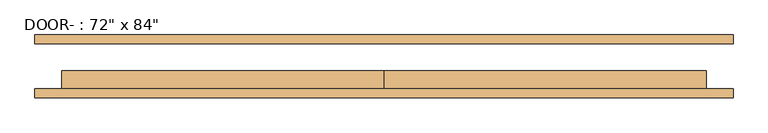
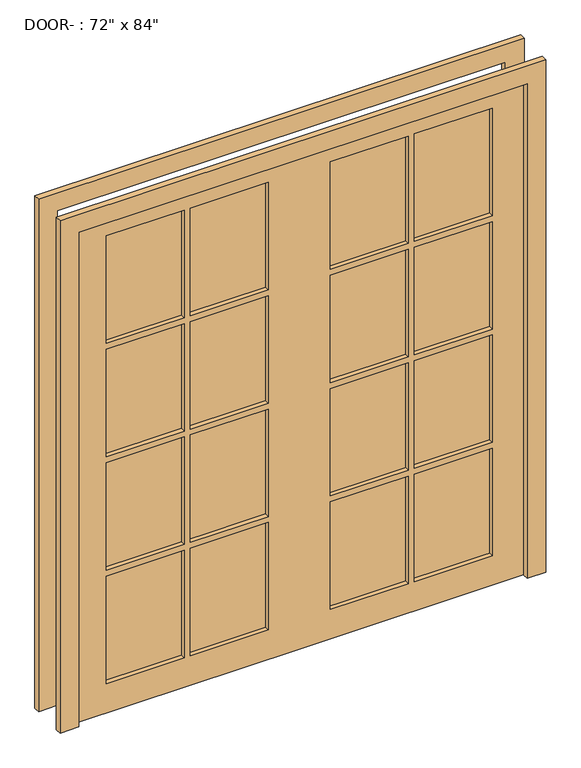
"""IFC4 building model written with IfcOpenShell, lengths in millimetres: door geometry."""

import ifcopenshell
import ifcopenshell.guid

model = None  # the IFC model being written
_history = None  # IfcOwnerHistory: only IFC2X3 demands one
_inside = {}  # id of a spatial element -> (the spatial element, [elements in it])
_under = {}  # id of a project, library or spatial element -> (it, [spatial elements below it])
_declared = {}  # id of a project -> (the project, [libraries it declares])
_typed = {}  # id of a type object -> (the type object, [elements of that type])
_made_of = {}  # id of a material, layer set ... -> (it, [elements and type objects made of it])


def new_model(schema):
    """Start an empty IFC model of exactly this schema.

    Asked for "IFC4X3", IfcOpenShell would pick the latest addendum, in which some entities
    have other attributes; the version numbers below select the first issue.
    IFC2X3 requires an IfcOwnerHistory on every rooted entity: one is made here for all.
    """
    global model, _history
    if schema == "IFC4X3":
        model = ifcopenshell.file(schema_version=(4, 3, 0, 0))
    else:
        model = ifcopenshell.file(schema=schema)
    _inside.clear()
    _under.clear()
    _declared.clear()
    _typed.clear()
    _made_of.clear()
    _history = None
    if model.schema == "IFC2X3":
        org = make("IfcOrganization", Name="unknown")
        user = make(
            "IfcPersonAndOrganization",
            ThePerson=make("IfcPerson", FamilyName="unknown"),
            TheOrganization=org,
        )
        app = make(
            "IfcApplication",
            ApplicationDeveloper=org,
            Version="unknown",
            ApplicationFullName="unknown",
            ApplicationIdentifier="unknown",
        )
        _history = make(
            "IfcOwnerHistory",
            OwningUser=user,
            OwningApplication=app,
            ChangeAction="ADDED",
            CreationDate=0,
        )
    return model


def make(cls, **values):
    """One entity of the class cls with the attributes given. An attribute that is None is left unset."""
    return model.create_entity(
        cls, **{name: value for name, value in values.items() if value is not None}
    )


def rooted(cls, **values):
    """An entity with a GlobalId (a new one), such as an element, a storey or a relation."""
    return make(cls, GlobalId=ifcopenshell.guid.new(), OwnerHistory=_history, **values)


def si_unit(unit_type, name, prefix=None):
    """IfcSIUnit, for example si_unit("LENGTHUNIT", "METRE", prefix="MILLI")."""
    return make("IfcSIUnit", UnitType=unit_type, Prefix=prefix, Name=name)


def assignment(units):
    """IfcUnitAssignment: the units of a project."""
    return None if units is None else make("IfcUnitAssignment", Units=units)


def point(xyz):
    """IfcCartesianPoint."""
    return None if xyz is None else make("IfcCartesianPoint", Coordinates=xyz)


def direction(xyz):
    """IfcDirection."""
    return None if xyz is None else make("IfcDirection", DirectionRatios=xyz)


def frame(location, z_axis=None, x_axis=None):
    """IfcAxis2Placement3D, a coordinate frame: its origin and axes. An axis left out is left unset."""
    return make(
        "IfcAxis2Placement3D",
        Location=point(location),
        Axis=direction(z_axis),
        RefDirection=direction(x_axis),
    )


def origin():
    """The frame at (0, 0, 0) with its axes left unset."""
    return frame((0.0, 0.0, 0.0))


def place(relative_to, where):
    """IfcLocalPlacement: puts the frame where relative to a parent placement (None: the world)."""
    return make(
        "IfcLocalPlacement", PlacementRelTo=relative_to, RelativePlacement=where
    )


def context(
    kind, dimensions, precision=None, world=None, true_north=None, identifier=None
):
    """IfcGeometricRepresentationContext, for example the 3D "Model" context."""
    return make(
        "IfcGeometricRepresentationContext",
        ContextIdentifier=identifier,
        ContextType=kind,
        CoordinateSpaceDimension=dimensions,
        Precision=precision,
        WorldCoordinateSystem=world,
        TrueNorth=true_north,
    )


def project(units=None, contexts=None):
    """IfcProject with its units and contexts."""
    return rooted(
        "IfcProject",
        Name="project",
        RepresentationContexts=contexts,
        UnitsInContext=assignment(units),
    )


def spatial(cls, under=None, at=None, **own):
    """A site, building, storey or space (cls), placed at a placement, below another one or the project."""
    s = rooted(cls, ObjectPlacement=at, **own)
    if under is not None:
        _under.setdefault(under.id(), (under, []))[1].append(s)
    return s


def polyline(points):
    """IfcPolyline through the points."""
    return make("IfcPolyline", Points=[point(p) for p in points])


def outline(outer, holes=None, kind="AREA"):
    """IfcArbitraryClosedProfileDef: a profile drawn as a closed curve; with holes, ...WithVoids."""
    if holes is None:
        return make("IfcArbitraryClosedProfileDef", ProfileType=kind, OuterCurve=outer)
    return make(
        "IfcArbitraryProfileDefWithVoids",
        ProfileType=kind,
        OuterCurve=outer,
        InnerCurves=holes,
    )


def extrude(swept, where, along, depth):
    """IfcExtrudedAreaSolid: the profile swept, set in the frame where, extruded along a direction by depth."""
    return make(
        "IfcExtrudedAreaSolid",
        SweptArea=swept,
        Position=where,
        ExtrudedDirection=direction(along),
        Depth=depth,
    )


def shape(context_of_items, identifier, shape_type, items):
    """IfcShapeRepresentation: the items that make up one representation, for example the "Body"."""
    return make(
        "IfcShapeRepresentation",
        ContextOfItems=context_of_items,
        RepresentationIdentifier=identifier,
        RepresentationType=shape_type,
        Items=items,
    )


def source(mapping_origin, context_of_items, identifier, shape_type, items):
    """IfcRepresentationMap: a shape defined once, which mapped items show again and again."""
    return make(
        "IfcRepresentationMap",
        MappingOrigin=mapping_origin,
        MappedRepresentation=shape(context_of_items, identifier, shape_type, items),
    )


def transform(
    local_origin,
    x_axis=None,
    y_axis=None,
    z_axis=None,
    scale=None,
    scale2=None,
    scale3=None,
    uniform=True,
):
    """IfcCartesianTransformationOperator3D, or its non-uniform kind. x_axis, y_axis, z_axis: its Axis1, 2, 3."""
    if uniform:
        return make(
            "IfcCartesianTransformationOperator3D",
            Axis1=direction(x_axis),
            Axis2=direction(y_axis),
            LocalOrigin=point(local_origin),
            Scale=scale,
            Axis3=direction(z_axis),
        )
    return make(
        "IfcCartesianTransformationOperator3DnonUniform",
        Axis1=direction(x_axis),
        Axis2=direction(y_axis),
        LocalOrigin=point(local_origin),
        Scale=scale,
        Axis3=direction(z_axis),
        Scale2=scale2,
        Scale3=scale3,
    )


def mapped(mapping_source, mapping_target):
    """IfcMappedItem: shows the shape of a source again, moved by a transform."""
    return make(
        "IfcMappedItem", MappingSource=mapping_source, MappingTarget=mapping_target
    )


def made_of(thing, what):
    """Note that an element or type object is made of a material, layer set ...; save() writes the relation."""
    if what is not None:
        _made_of.setdefault(what.id(), (what, []))[1].append(thing)
    return thing


def element(
    cls,
    number,
    at=None,
    inside=None,
    cuts=None,
    type_object=None,
    material=None,
    context=None,
    identifier="Body",
    shape_type=None,
    held_by="IfcProductDefinitionShape",
    body=None,
    shapes=None,
    **own,
):
    """One element of the class cls, such as IfcWall. Its Tag is "e" and its number.

    at: its placement. inside: the storey or other place that contains it. cuts: it is an
    opening in that element (IfcRelVoidsElement). A single representation is given by context,
    identifier, shape_type and body (its items); several are given by shapes. held_by: the class
    of the entity that holds the representations. save() writes the other relations.
    """
    e = rooted(cls, Tag="e%d" % number, ObjectPlacement=at, **own)
    if body is not None:
        shapes = [shape(context, identifier, shape_type, body)]
    if shapes is not None:
        e.Representation = make(held_by, Representations=shapes)
    if inside is not None:
        _inside.setdefault(inside.id(), (inside, []))[1].append(e)
    if cuts is not None:
        rooted(
            "IfcRelVoidsElement", RelatingBuildingElement=cuts, RelatedOpeningElement=e
        )
    if type_object is not None:
        _typed.setdefault(type_object.id(), (type_object, []))[1].append(e)
    return made_of(e, material)


def aggregate(whole, parts):
    """IfcRelAggregates: a whole, such as a stair, and the parts it consists of."""
    return rooted("IfcRelAggregates", RelatingObject=whole, RelatedObjects=parts)


def save(model, path):
    """Write the relations noted so far, then the file.

    IfcRelAggregates (storeys below a building ...), IfcRelContainedInSpatialStructure (elements
    in a storey), IfcRelDefinesByType, IfcRelAssociatesMaterial and IfcRelDeclares: one each for
    every whole, place, type object, material and project.
    """
    for whole, parts in _under.values():
        aggregate(whole, parts)
    for where, things in _inside.values():
        rooted(
            "IfcRelContainedInSpatialStructure",
            RelatedElements=things,
            RelatingStructure=where,
        )
    for kind, things in _typed.values():
        rooted("IfcRelDefinesByType", RelatedObjects=things, RelatingType=kind)
    for what, things in _made_of.values():
        rooted("IfcRelAssociatesMaterial", RelatedObjects=things, RelatingMaterial=what)
    for by, libraries in _declared.values():
        rooted("IfcRelDeclares", RelatingContext=by, RelatedDefinitions=libraries)
    model.write(path)


def door_916035b4(model_context):
    return source(origin(), model_context, "Body", "SweptSolid", [
        extrude(outline(polyline([(469.9, -44.45), (469.9, -31.75), (787.4, -31.75), (787.4, -44.45), (469.9, -44.45)])), frame((0.0, 0.0, 1593.85), z_axis=(0.0, 0.0, 1.0), x_axis=(1.0, 0.0, 0.0)), (0.0, 0.0, 1.0), 463.55),
        extrude(outline(polyline([(127.0, -44.45), (127.0, -31.75), (444.5, -31.75), (444.5, -44.45), (127.0, -44.45)])), frame((0.0, 0.0, 1593.85), z_axis=(0.0, 0.0, 1.0), x_axis=(1.0, 0.0, 0.0)), (0.0, 0.0, 1.0), 463.55),
        extrude(outline(polyline([(-444.5, -44.45), (-444.5, -31.75), (-127.0, -31.75), (-127.0, -44.45), (-444.5, -44.45)])), frame((0.0, 0.0, 1593.85), z_axis=(0.0, 0.0, 1.0), x_axis=(1.0, 0.0, 0.0)), (0.0, 0.0, 1.0), 463.55),
        extrude(outline(polyline([(-787.4, -44.45), (-787.4, -31.75), (-469.9, -31.75), (-469.9, -44.45), (-787.4, -44.45)])), frame((0.0, 0.0, 1593.85), z_axis=(0.0, 0.0, 1.0), x_axis=(1.0, 0.0, 0.0)), (0.0, 0.0, 1.0), 463.55),
        extrude(outline(polyline([(-787.4, -44.45), (-787.4, -31.75), (-469.9, -31.75), (-469.9, -44.45), (-787.4, -44.45)])), frame((0.0, 0.0, 1104.9), z_axis=(0.0, 0.0, 1.0), x_axis=(1.0, 0.0, 0.0)), (0.0, 0.0, 1.0), 463.55),
        extrude(outline(polyline([(-444.5, -44.45), (-444.5, -31.75), (-127.0, -31.75), (-127.0, -44.45), (-444.5, -44.45)])), frame((0.0, 0.0, 1104.9), z_axis=(0.0, 0.0, 1.0), x_axis=(1.0, 0.0, 0.0)), (0.0, 0.0, 1.0), 463.55),
        extrude(outline(polyline([(127.0, -44.45), (127.0, -31.75), (444.5, -31.75), (444.5, -44.45), (127.0, -44.45)])), frame((0.0, 0.0, 1104.9), z_axis=(0.0, 0.0, 1.0), x_axis=(1.0, 0.0, 0.0)), (0.0, 0.0, 1.0), 463.55),
        extrude(outline(polyline([(469.9, -44.45), (469.9, -31.75), (787.4, -31.75), (787.4, -44.45), (469.9, -44.45)])), frame((0.0, 0.0, 1104.9), z_axis=(0.0, 0.0, 1.0), x_axis=(1.0, 0.0, 0.0)), (0.0, 0.0, 1.0), 463.55),
        extrude(outline(polyline([(469.9, -44.45), (469.9, -31.75), (787.4, -31.75), (787.4, -44.45), (469.9, -44.45)])), frame((0.0, 0.0, 615.95), z_axis=(0.0, 0.0, 1.0), x_axis=(1.0, 0.0, 0.0)), (0.0, 0.0, 1.0), 463.55),
        extrude(outline(polyline([(127.0, -44.45), (127.0, -31.75), (444.5, -31.75), (444.5, -44.45), (127.0, -44.45)])), frame((0.0, 0.0, 615.95), z_axis=(0.0, 0.0, 1.0), x_axis=(1.0, 0.0, 0.0)), (0.0, 0.0, 1.0), 463.55),
        extrude(outline(polyline([(-444.5, -44.45), (-444.5, -31.75), (-127.0, -31.75), (-127.0, -44.45), (-444.5, -44.45)])), frame((0.0, 0.0, 615.95), z_axis=(0.0, 0.0, 1.0), x_axis=(1.0, 0.0, 0.0)), (0.0, 0.0, 1.0), 463.55),
        extrude(outline(polyline([(-787.4, -44.45), (-787.4, -31.75), (-469.9, -31.75), (-469.9, -44.45), (-787.4, -44.45)])), frame((0.0, 0.0, 615.95), z_axis=(0.0, 0.0, 1.0), x_axis=(1.0, 0.0, 0.0)), (0.0, 0.0, 1.0), 463.55),
        extrude(outline(polyline([(469.9, -44.45), (469.9, -31.75), (787.4, -31.75), (787.4, -44.45), (469.9, -44.45)])), frame((0.0, 0.0, 127.0), z_axis=(0.0, 0.0, 1.0), x_axis=(1.0, 0.0, 0.0)), (0.0, 0.0, 1.0), 463.55),
        extrude(outline(polyline([(127.0, -44.45), (127.0, -31.75), (444.5, -31.75), (444.5, -44.45), (127.0, -44.45)])), frame((0.0, 0.0, 127.0), z_axis=(0.0, 0.0, 1.0), x_axis=(1.0, 0.0, 0.0)), (0.0, 0.0, 1.0), 463.55),
        extrude(outline(polyline([(-444.5, -44.45), (-444.5, -31.75), (-127.0, -31.75), (-127.0, -44.45), (-444.5, -44.45)])), frame((0.0, 0.0, 127.0), z_axis=(0.0, 0.0, 1.0), x_axis=(1.0, 0.0, 0.0)), (0.0, 0.0, 1.0), 463.55),
        extrude(outline(polyline([(-787.4, -44.45), (-787.4, -31.75), (-469.9, -31.75), (-469.9, -44.45), (-787.4, -44.45)])), frame((0.0, 0.0, 127.0), z_axis=(0.0, 0.0, 1.0), x_axis=(1.0, 0.0, 0.0)), (0.0, 0.0, 1.0), 463.55),
        extrude(outline(polyline([(2133.6, 0.0), (2133.6, -914.4), (0.0, -914.4), (0.0, 0.0), (0.0, 914.4), (2133.6, 914.4), (2133.6, 0.0)]), holes=[polyline([(2057.4, 469.9), (2057.4, 787.4), (1593.85, 787.4), (1593.85, 469.9), (2057.4, 469.9)]), polyline([(2057.4, 127.0), (2057.4, 444.5), (1593.85, 444.5), (1593.85, 127.0), (2057.4, 127.0)]), polyline([(1568.45, 469.9), (1568.45, 787.4), (1104.9, 787.4), (1104.9, 469.9), (1568.45, 469.9)]), polyline([(1568.45, 127.0), (1568.45, 444.5), (1104.9, 444.5), (1104.9, 127.0), (1568.45, 127.0)]), polyline([(1079.5, 469.9), (1079.5, 787.4), (615.95, 787.4), (615.95, 469.9), (1079.5, 469.9)]), polyline([(1079.5, 127.0), (1079.5, 444.5), (615.95, 444.5), (615.95, 127.0), (1079.5, 127.0)]), polyline([(590.55, 469.9), (590.55, 787.4), (127.0, 787.4), (127.0, 469.9), (590.55, 469.9)]), polyline([(590.55, 127.0), (590.55, 444.5), (127.0, 444.5), (127.0, 127.0), (590.55, 127.0)]), polyline([(2057.4, -444.5), (2057.4, -127.0), (1593.85, -127.0), (1593.85, -444.5), (2057.4, -444.5)]), polyline([(1568.45, -444.5), (1568.45, -127.0), (1104.9, -127.0), (1104.9, -444.5), (1568.45, -444.5)]), polyline([(1568.45, -469.9), (1104.9, -469.9), (1104.9, -787.4), (1568.45, -787.4), (1568.45, -469.9)]), polyline([(1079.5, -444.5), (1079.5, -127.0), (615.95, -127.0), (615.95, -444.5), (1079.5, -444.5)]), polyline([(1079.5, -469.9), (615.95, -469.9), (615.95, -787.4), (1079.5, -787.4), (1079.5, -469.9)]), polyline([(590.55, -444.5), (590.55, -127.0), (127.0, -127.0), (127.0, -444.5), (590.55, -444.5)]), polyline([(590.55, -787.4), (590.55, -469.9), (127.0, -469.9), (127.0, -787.4), (590.55, -787.4)]), polyline([(1593.85, -469.9), (1593.85, -787.4), (2057.4, -787.4), (2057.4, -469.9), (1593.85, -469.9)])]), frame((0.0, -63.5, 0.0), z_axis=(0.0, 1.0, 0.0), x_axis=(0.0, 0.0, 1.0)), (0.0, 0.0, 1.0), 50.8),
        extrude(outline(polyline([(2133.6, -914.4), (2133.6, 914.4), (0.0, 914.4), (0.0, 990.6), (2209.8, 990.6), (2209.8, -990.6), (0.0, -990.6), (0.0, -914.4), (2133.6, -914.4)])), frame((0.0, 63.5, 0.0), z_axis=(0.0, 1.0, 0.0), x_axis=(0.0, 0.0, 1.0)), (0.0, 0.0, 1.0), 25.4),
        extrude(outline(polyline([(2133.6, -914.4), (2133.6, 914.4), (0.0, 914.4), (0.0, 990.6), (2209.8, 990.6), (2209.8, -990.6), (0.0, -990.6), (0.0, -914.4), (2133.6, -914.4)])), frame((0.0, -88.9, 0.0), z_axis=(0.0, 1.0, 0.0), x_axis=(0.0, 0.0, 1.0)), (0.0, 0.0, 1.0), 25.4),
    ])


if __name__ == "__main__":
    model = new_model("IFC4")
    model_context = context("Model", 3, world=origin())
    ifc_project = project(units=[si_unit("LENGTHUNIT", "METRE", prefix="MILLI")], contexts=[model_context])
    site = spatial("IfcSite", under=ifc_project)
    building = spatial("IfcBuilding", under=site)
    placement = place(None, origin())
    door_shape = door_916035b4(model_context)
    element("IfcDoor", 1, ObjectType="DOOR- : 72\" x 84\"", at=placement, inside=building, context=model_context, shape_type="MappedRepresentation", body=[
        mapped(door_shape, transform((0.0, 0.0, 0.0), x_axis=(1.0, 0.0, 0.0), y_axis=(0.0, 1.0, 0.0), z_axis=(0.0, 0.0, 1.0))),
    ])
    save(model, "model.ifc")
